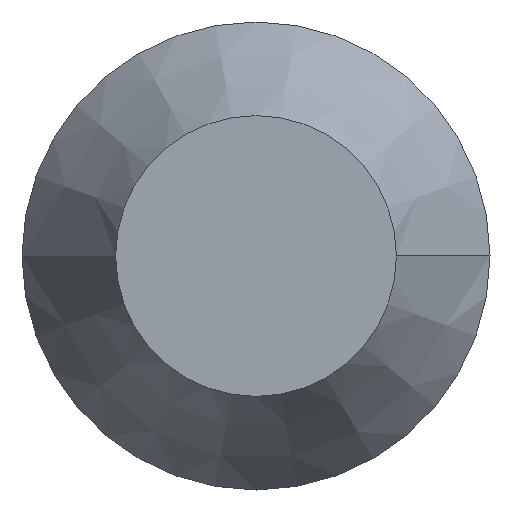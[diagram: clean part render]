
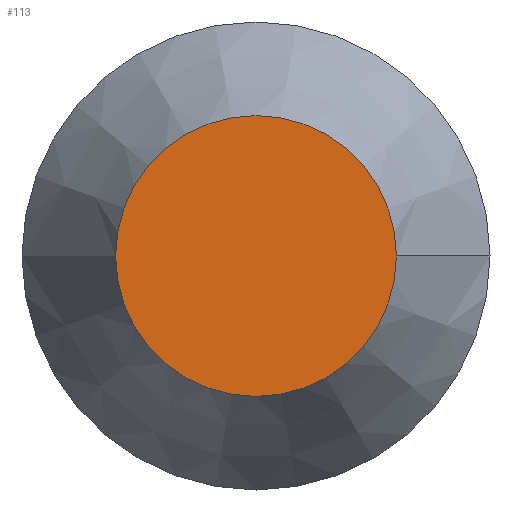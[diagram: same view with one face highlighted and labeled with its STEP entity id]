
A CAD part, front view. The second image highlights one B-rep face of the part: STEP entity #113.
In plain terms, the highlighted planar face has unit normal (0, -1, 0).
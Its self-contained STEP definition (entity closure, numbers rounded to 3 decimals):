
#79 = DIRECTION ( 'NONE',  ( 1., 0., 0. ) ) ;
#113 = ADVANCED_FACE ( 'NONE', ( #1869 ), #567, .T. ) ;
#127 = DIRECTION ( 'NONE',  ( -1., 0., 0. ) ) ;
#164 = EDGE_CURVE ( 'NONE', #1511, #1589, #1438, .T. ) ;
#227 = CARTESIAN_POINT ( 'NONE',  ( 0., 0., 0. ) ) ;
#243 = AXIS2_PLACEMENT_3D ( 'NONE', #227, #2000, #1077 ) ;
#258 = CARTESIAN_POINT ( 'NONE',  ( 0., 0., 0. ) ) ;
#265 = ORIENTED_EDGE ( 'NONE', *, *, #164, .F. ) ;
#355 = AXIS2_PLACEMENT_3D ( 'NONE', #589, #841, #79 ) ;
#567 = PLANE ( 'NONE',  #355 ) ;
#589 = CARTESIAN_POINT ( 'NONE',  ( -4.5, 0., 0. ) ) ;
#698 = ORIENTED_EDGE ( 'NONE', *, *, #1916, .F. ) ;
#841 = DIRECTION ( 'NONE',  ( 0., -1., 0. ) ) ;
#896 = EDGE_LOOP ( 'NONE', ( #698, #265 ) ) ;
#921 = CARTESIAN_POINT ( 'NONE',  ( -4.5, 0., 0. ) ) ;
#1077 = DIRECTION ( 'NONE',  ( -1., 0., 0. ) ) ;
#1103 = CARTESIAN_POINT ( 'NONE',  ( 4.5, 0., 0. ) ) ;
#1228 = AXIS2_PLACEMENT_3D ( 'NONE', #258, #2061, #127 ) ;
#1349 = CIRCLE ( 'NONE', #1228, 4.5 ) ;
#1438 = CIRCLE ( 'NONE', #243, 4.5 ) ;
#1511 = VERTEX_POINT ( 'NONE', #1103 ) ;
#1589 = VERTEX_POINT ( 'NONE', #921 ) ;
#1869 = FACE_OUTER_BOUND ( 'NONE', #896, .T. ) ;
#1916 = EDGE_CURVE ( 'NONE', #1589, #1511, #1349, .T. ) ;
#2000 = DIRECTION ( 'NONE',  ( 0., 1., 0. ) ) ;
#2061 = DIRECTION ( 'NONE',  ( 0., 1., 0. ) ) ;
